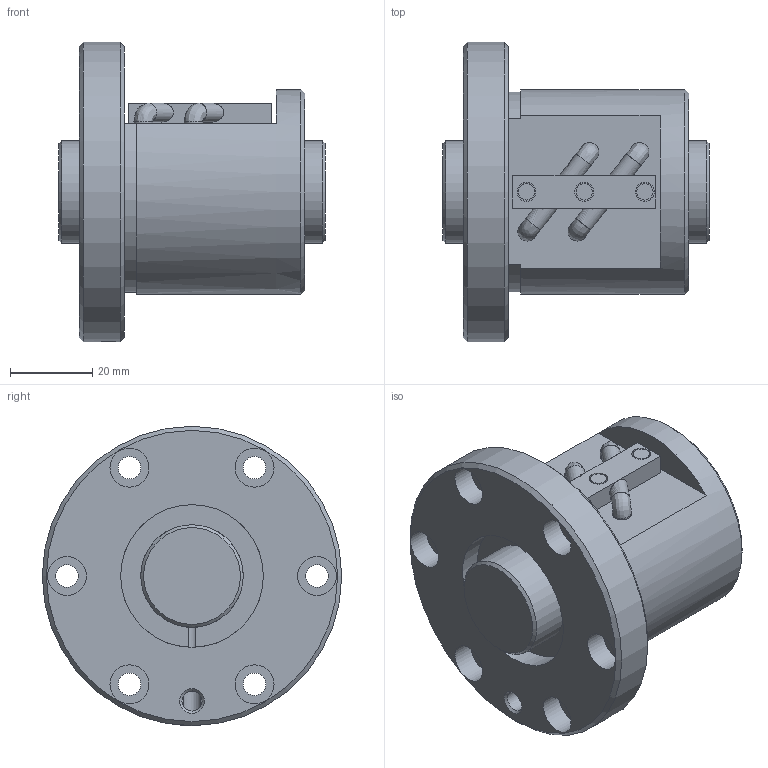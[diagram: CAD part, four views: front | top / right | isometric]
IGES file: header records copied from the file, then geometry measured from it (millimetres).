
Start section: Data from Parasolid IGES Translator 26.0.171, Copyright(c) 2006 Siemens PLM Software. All Rights Reserved.
Global section: file name: BIF2505V-5RRG0+65LC0_000.igs; native system: By Siemens PLM Incorporated; preprocessor: XPlus GENERIC/IGES 26.0.171; author: Noname; organization: Noname; date: 20240715.081731; units: millimetre
Bounding box: 65 x 73 x 73 mm (x, y, z)
Surface area: 30083.9 mm2 (no closed solid volume)
Topology: 0 solids, 0 shells, 98 faces, 462 edges, 417 vertices
Faces by surface type: revolution 57, extrusion 41
